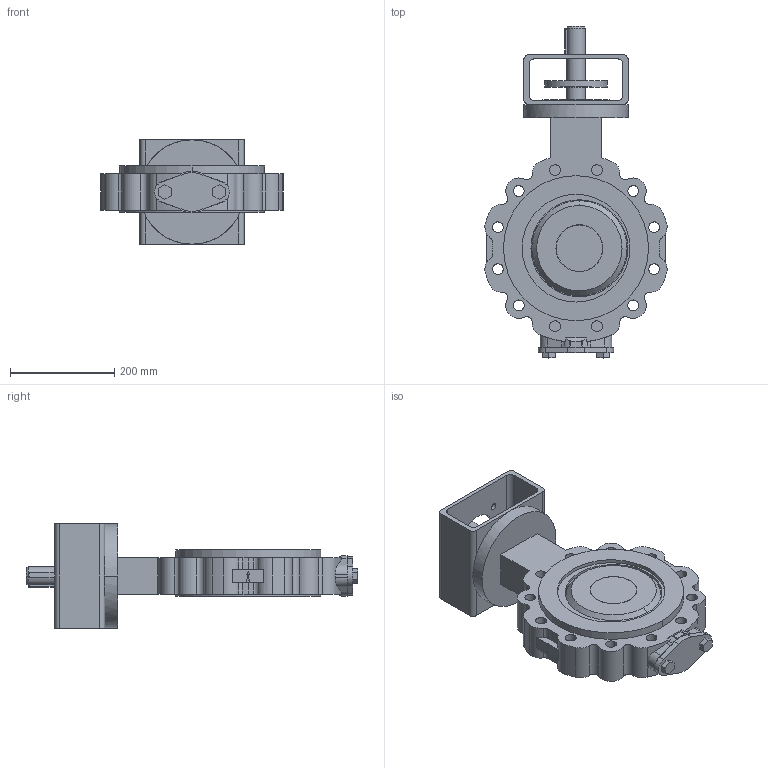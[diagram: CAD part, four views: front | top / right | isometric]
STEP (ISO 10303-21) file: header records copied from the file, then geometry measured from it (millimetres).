
FILE_DESCRIPTION( ( '' ), '1' );
FILE_NAME( 'F:/DE-SHS/TB/OR/04-Sonstiges/daten/files_3d/018_ZETRIX-PN10_freiesWellende/c000006371.stp', '2016-09-01T11:05:06', ( '' ), ( '' ), ' ', ' ', ' ' );
FILE_SCHEMA( ( 'CONFIG_CONTROL_DESIGN' ) );
Length unit declared in the file: millimetre
Products named in the file (1): 1
Bounding box: 349.38 x 636.4 x 200 mm (x, y, z)
Volume: 8562622.4 mm3; surface area: 725266.7 mm2
Topology: 1 solids, 1 shells, 292 faces, 784 edges, 520 vertices
Faces by surface type: cylinder 176, plane 110, cone 4, sphere 2
Entity records: 10158 total; most frequent: CARTESIAN_POINT 2397, DIRECTION 1724, ORIENTED_EDGE 1568, EDGE_CURVE 784, AXIS2_PLACEMENT_3D 679, VERTEX_POINT 520, CIRCLE 374, LINE 366
